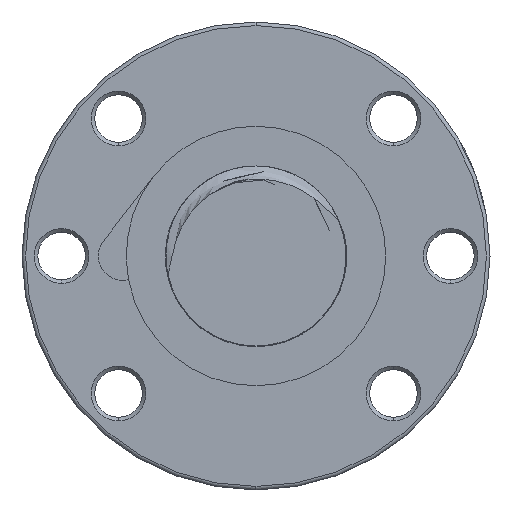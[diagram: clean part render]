
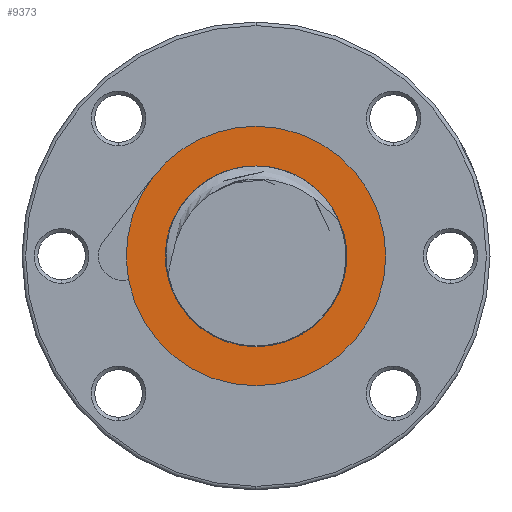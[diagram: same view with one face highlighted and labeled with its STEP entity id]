
A CAD part, left-side view. The second image highlights one B-rep face of the part: STEP entity #9373.
In plain terms, the highlighted planar face has unit normal (-1, 0, 0).
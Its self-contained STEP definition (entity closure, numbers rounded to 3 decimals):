
#9198 = VERTEX_POINT ( 'NONE', #11034 ) ;
#9200 = EDGE_CURVE ( 'NONE', #9198, #9201, #11014, .T. ) ;
#9201 = VERTEX_POINT ( 'NONE', #11015 ) ;
#9215 = EDGE_CURVE ( 'NONE', #9201, #9216, #11106, .T. ) ;
#9216 = VERTEX_POINT ( 'NONE', #11163 ) ;
#9290 = VERTEX_POINT ( 'NONE', #11467 ) ;
#9293 = VERTEX_POINT ( 'NONE', #11428 ) ;
#9295 = EDGE_CURVE ( 'NONE', #9293, #9290, #11408, .T. ) ;
#9364 = VERTEX_POINT ( 'NONE', #11301 ) ;
#9366 = EDGE_CURVE ( 'NONE', #9364, #9293, #11251, .T. ) ;
#9373 = ADVANCED_FACE ( 'NONE', ( #11121, #11120 ), #11759, .T. ) ;
#9374 = EDGE_LOOP ( 'NONE', ( #9568, #9569, #9764 ) ) ;
#9399 = EDGE_CURVE ( 'NONE', #9400, #9198, #11717, .T. ) ;
#9400 = VERTEX_POINT ( 'NONE', #11712 ) ;
#9568 = ORIENTED_EDGE ( 'NONE', *, *, #9366, .F. ) ;
#9569 = ORIENTED_EDGE ( 'NONE', *, *, #9570, .F. ) ;
#9570 = EDGE_CURVE ( 'NONE', #9290, #9364, #11925, .T. ) ;
#9626 = EDGE_LOOP ( 'NONE', ( #9627, #9669, #9670, #9671 ) ) ;
#9627 = ORIENTED_EDGE ( 'NONE', *, *, #9668, .T. ) ;
#9668 = EDGE_CURVE ( 'NONE', #9216, #9400, #12193, .T. ) ;
#9669 = ORIENTED_EDGE ( 'NONE', *, *, #9399, .T. ) ;
#9670 = ORIENTED_EDGE ( 'NONE', *, *, #9200, .T. ) ;
#9671 = ORIENTED_EDGE ( 'NONE', *, *, #9215, .T. ) ;
#9764 = ORIENTED_EDGE ( 'NONE', *, *, #9295, .F. ) ;
#11010 = DIRECTION ( 'NONE',  ( 0., 0., 1. ) ) ;
#11011 = DIRECTION ( 'NONE',  ( -1., 0., 0. ) ) ;
#11012 = CARTESIAN_POINT ( 'NONE',  ( -127.8, 0., 0. ) ) ;
#11013 = AXIS2_PLACEMENT_3D ( 'NONE', #11012, #11011, #11010 ) ;
#11014 = CIRCLE ( 'NONE', #11013, 18.019 ) ;
#11015 = CARTESIAN_POINT ( 'NONE',  ( -127.8, 0., 18.019 ) ) ;
#11034 = CARTESIAN_POINT ( 'NONE',  ( -127.8, 0., -18.019 ) ) ;
#11106 = CIRCLE ( 'NONE', #11167, 18.019 ) ;
#11120 = FACE_OUTER_BOUND ( 'NONE', #9626, .T. ) ;
#11121 = FACE_BOUND ( 'NONE', #9374, .T. ) ;
#11163 = CARTESIAN_POINT ( 'NONE',  ( -127.8, 14.243, 11.038 ) ) ;
#11164 = DIRECTION ( 'NONE',  ( 0., 0., 1. ) ) ;
#11165 = DIRECTION ( 'NONE',  ( -1., 0., 0. ) ) ;
#11166 = CARTESIAN_POINT ( 'NONE',  ( -127.8, 0., 0. ) ) ;
#11167 = AXIS2_PLACEMENT_3D ( 'NONE', #11166, #11165, #11164 ) ;
#11248 = DIRECTION ( 'NONE',  ( 0., 0., 1. ) ) ;
#11249 = DIRECTION ( 'NONE',  ( -1., 0., 0. ) ) ;
#11250 = AXIS2_PLACEMENT_3D ( 'NONE', #11303, #11249, #11248 ) ;
#11251 = CIRCLE ( 'NONE', #11250, 12.6 ) ;
#11301 = CARTESIAN_POINT ( 'NONE',  ( -127.8, 12.532, -1.306 ) ) ;
#11303 = CARTESIAN_POINT ( 'NONE',  ( -127.8, 0., 0. ) ) ;
#11404 = DIRECTION ( 'NONE',  ( 0., 0., 1. ) ) ;
#11405 = DIRECTION ( 'NONE',  ( -1., 0., 0. ) ) ;
#11406 = CARTESIAN_POINT ( 'NONE',  ( -127.8, 0., 0. ) ) ;
#11407 = AXIS2_PLACEMENT_3D ( 'NONE', #11406, #11405, #11404 ) ;
#11408 = CIRCLE ( 'NONE', #11407, 12.6 ) ;
#11428 = CARTESIAN_POINT ( 'NONE',  ( -127.8, 0., -12.6 ) ) ;
#11467 = CARTESIAN_POINT ( 'NONE',  ( -127.8, -12.133, 3.399 ) ) ;
#11712 = CARTESIAN_POINT ( 'NONE',  ( -127.8, 17.717, -3.285 ) ) ;
#11713 = DIRECTION ( 'NONE',  ( 0., 0., 1. ) ) ;
#11714 = DIRECTION ( 'NONE',  ( -1., 0., 0. ) ) ;
#11715 = CARTESIAN_POINT ( 'NONE',  ( -127.8, 0., 0. ) ) ;
#11716 = AXIS2_PLACEMENT_3D ( 'NONE', #11715, #11714, #11713 ) ;
#11717 = CIRCLE ( 'NONE', #11716, 18.019 ) ;
#11755 = DIRECTION ( 'NONE',  ( 0., 0., 1. ) ) ;
#11756 = DIRECTION ( 'NONE',  ( -1., 0., 0. ) ) ;
#11757 = CARTESIAN_POINT ( 'NONE',  ( -127.8, 0., 12.6 ) ) ;
#11758 = AXIS2_PLACEMENT_3D ( 'NONE', #11757, #11756, #11755 ) ;
#11759 = PLANE ( 'NONE',  #11758 ) ;
#11875 = CARTESIAN_POINT ( 'NONE',  ( -127.8, 12.532, -1.306 ) ) ;
#11876 = CARTESIAN_POINT ( 'NONE',  ( -127.8, 12.443, -1.156 ) ) ;
#11877 = CARTESIAN_POINT ( 'NONE',  ( -127.8, 12.377, -0.992 ) ) ;
#11878 = CARTESIAN_POINT ( 'NONE',  ( -127.8, 12.255, -0.663 ) ) ;
#11879 = CARTESIAN_POINT ( 'NONE',  ( -127.8, 12.201, -0.497 ) ) ;
#11880 = CARTESIAN_POINT ( 'NONE',  ( -127.8, 12.044, 0.005 ) ) ;
#11881 = CARTESIAN_POINT ( 'NONE',  ( -127.8, 11.947, 0.342 ) ) ;
#11882 = CARTESIAN_POINT ( 'NONE',  ( -127.8, 11.638, 1.347 ) ) ;
#11883 = CARTESIAN_POINT ( 'NONE',  ( -127.8, 11.411, 2.013 ) ) ;
#11884 = CARTESIAN_POINT ( 'NONE',  ( -127.8, 10.874, 3.302 ) ) ;
#11885 = CARTESIAN_POINT ( 'NONE',  ( -127.8, 10.567, 3.926 ) ) ;
#11886 = CARTESIAN_POINT ( 'NONE',  ( -127.8, 10.035, 4.825 ) ) ;
#11887 = CARTESIAN_POINT ( 'NONE',  ( -127.8, 9.846, 5.118 ) ) ;
#11888 = CARTESIAN_POINT ( 'NONE',  ( -127.8, 9.444, 5.692 ) ) ;
#11889 = CARTESIAN_POINT ( 'NONE',  ( -127.8, 9.23, 5.972 ) ) ;
#11890 = CARTESIAN_POINT ( 'NONE',  ( -127.8, 8.562, 6.778 ) ) ;
#11891 = CARTESIAN_POINT ( 'NONE',  ( -127.8, 8.077, 7.275 ) ) ;
#11892 = CARTESIAN_POINT ( 'NONE',  ( -127.8, 7.287, 7.957 ) ) ;
#11893 = CARTESIAN_POINT ( 'NONE',  ( -127.8, 7.013, 8.174 ) ) ;
#11894 = CARTESIAN_POINT ( 'NONE',  ( -127.8, 6.444, 8.586 ) ) ;
#11895 = CARTESIAN_POINT ( 'NONE',  ( -127.8, 6.151, 8.779 ) ) ;
#11896 = CARTESIAN_POINT ( 'NONE',  ( -127.8, 5.254, 9.316 ) ) ;
#11897 = CARTESIAN_POINT ( 'NONE',  ( -127.8, 4.63, 9.619 ) ) ;
#11898 = CARTESIAN_POINT ( 'NONE',  ( -127.8, 3.328, 10.115 ) ) ;
#11899 = CARTESIAN_POINT ( 'NONE',  ( -127.8, 2.646, 10.307 ) ) ;
#11900 = CARTESIAN_POINT ( 'NONE',  ( -127.8, 1.28, 10.565 ) ) ;
#11901 = CARTESIAN_POINT ( 'NONE',  ( -127.8, 0.59, 10.632 ) ) ;
#11902 = CARTESIAN_POINT ( 'NONE',  ( -127.8, -0.454, 10.643 ) ) ;
#11903 = CARTESIAN_POINT ( 'NONE',  ( -127.8, -0.805, 10.63 ) ) ;
#11904 = CARTESIAN_POINT ( 'NONE',  ( -127.8, -1.505, 10.575 ) ) ;
#11905 = CARTESIAN_POINT ( 'NONE',  ( -127.8, -1.851, 10.532 ) ) ;
#11906 = CARTESIAN_POINT ( 'NONE',  ( -127.8, -2.877, 10.36 ) ) ;
#11907 = CARTESIAN_POINT ( 'NONE',  ( -127.8, -3.545, 10.187 ) ) ;
#11908 = CARTESIAN_POINT ( 'NONE',  ( -127.8, -4.524, 9.844 ) ) ;
#11909 = CARTESIAN_POINT ( 'NONE',  ( -127.8, -4.846, 9.715 ) ) ;
#11910 = CARTESIAN_POINT ( 'NONE',  ( -127.8, -5.483, 9.43 ) ) ;
#11911 = CARTESIAN_POINT ( 'NONE',  ( -127.8, -5.799, 9.272 ) ) ;
#11912 = CARTESIAN_POINT ( 'NONE',  ( -127.8, -7.328, 8.429 ) ) ;
#11913 = CARTESIAN_POINT ( 'NONE',  ( -127.8, -8.412, 7.571 ) ) ;
#11914 = CARTESIAN_POINT ( 'NONE',  ( -127.8, -9.873, 6.068 ) ) ;
#11915 = CARTESIAN_POINT ( 'NONE',  ( -127.8, -10.328, 5.532 ) ) ;
#11916 = CARTESIAN_POINT ( 'NONE',  ( -127.8, -10.984, 4.713 ) ) ;
#11917 = CARTESIAN_POINT ( 'NONE',  ( -127.8, -11.198, 4.436 ) ) ;
#11918 = CARTESIAN_POINT ( 'NONE',  ( -127.8, -11.529, 4.028 ) ) ;
#11919 = CARTESIAN_POINT ( 'NONE',  ( -127.8, -11.64, 3.893 ) ) ;
#11920 = CARTESIAN_POINT ( 'NONE',  ( -127.8, -11.874, 3.633 ) ) ;
#11921 = CARTESIAN_POINT ( 'NONE',  ( -127.8, -11.994, 3.507 ) ) ;
#11922 = CARTESIAN_POINT ( 'NONE',  ( -127.8, -12.133, 3.399 ) ) ;
#11925 = B_SPLINE_CURVE_WITH_KNOTS ( 'NONE', 3,
 ( #11922, #11921, #11920, #11919, #11918, #11917, #11916, #11915, #11914, #11913, #11912, #11911, #11910, #11909, #11908, #11907, #11906, #11905, #11904, #11903, #11902, #11901, #11900, #11899, #11898, #11897, #11896, #11895, #11894, #11893, #11892, #11891, #11890, #11889, #11888, #11887, #11886, #11885, #11884, #11883, #11882, #11881, #11880, #11879, #11878, #11877, #11876, #11875 ),
 .UNSPECIFIED., .F., .F.,
 ( 4, 2, 2, 2, 2, 2, 2, 2, 2, 2, 2, 2, 2, 2, 2, 2, 2, 2, 2, 2, 2, 2, 2, 4 ),
 ( 0.047, 0.048, 0.048, 0.049, 0.051, 0.055, 0.057, 0.058, 0.06, 0.061, 0.062, 0.064, 0.066, 0.068, 0.069, 0.07, 0.072, 0.073, 0.074, 0.077, 0.079, 0.08, 0.08, 0.081 ),
 .UNSPECIFIED. ) ;
#12189 = DIRECTION ( 'NONE',  ( 0., 0., 1. ) ) ;
#12190 = DIRECTION ( 'NONE',  ( -1., 0., 0. ) ) ;
#12191 = CARTESIAN_POINT ( 'NONE',  ( -127.8, 0., 0. ) ) ;
#12192 = AXIS2_PLACEMENT_3D ( 'NONE', #12191, #12190, #12189 ) ;
#12193 = CIRCLE ( 'NONE', #12192, 18.019 ) ;
